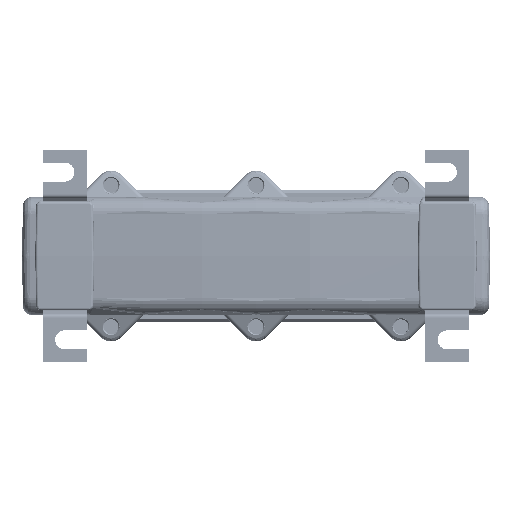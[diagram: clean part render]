
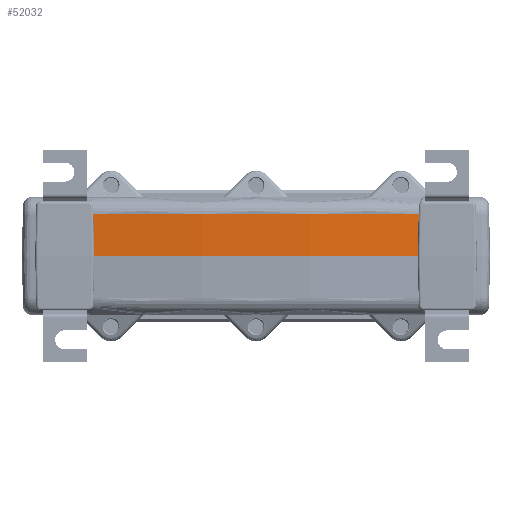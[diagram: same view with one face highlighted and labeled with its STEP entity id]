
A CAD part, front view. The second image highlights one B-rep face of the part: STEP entity #52032.
In plain terms, the highlighted conical face has half-angle 1 degrees and reference radius 600 mm.
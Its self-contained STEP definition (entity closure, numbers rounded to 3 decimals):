
#2309=CONICAL_SURFACE('',#55284,600.,0.017);
#3684=FACE_OUTER_BOUND('',#6546,.T.);
#6546=EDGE_LOOP('',(#37345,#37346,#37347,#37348));
#9515=B_SPLINE_CURVE_WITH_KNOTS('',3,(#118654,#118655,#118656,#118657),
 .UNSPECIFIED.,.F.,.F.,(4,4),(0.,0.014),
 .UNSPECIFIED.);
#9516=B_SPLINE_CURVE_WITH_KNOTS('',3,(#118660,#118661,#118662,#118663),
 .UNSPECIFIED.,.F.,.F.,(4,4),(0.,0.014),
 .UNSPECIFIED.);
#10635=CIRCLE('',#55285,600.);
#10636=CIRCLE('',#55286,599.754);
#22224=VERTEX_POINT('',#118650);
#22225=VERTEX_POINT('',#118651);
#22226=VERTEX_POINT('',#118653);
#22227=VERTEX_POINT('',#118658);
#27906=EDGE_CURVE('',#22224,#22225,#10635,.T.);
#27907=EDGE_CURVE('',#22224,#22226,#9515,.T.);
#27908=EDGE_CURVE('',#22226,#22227,#10636,.T.);
#27909=EDGE_CURVE('',#22225,#22227,#9516,.T.);
#37345=ORIENTED_EDGE('',*,*,#27906,.F.);
#37346=ORIENTED_EDGE('',*,*,#27907,.T.);
#37347=ORIENTED_EDGE('',*,*,#27908,.T.);
#37348=ORIENTED_EDGE('',*,*,#27909,.F.);
#52032=ADVANCED_FACE('',(#3684),#2309,.T.);
#55284=AXIS2_PLACEMENT_3D('',#118649,#61332,#61333);
#55285=AXIS2_PLACEMENT_3D('',#118652,#61334,#61335);
#55286=AXIS2_PLACEMENT_3D('',#118659,#61336,#61337);
#61332=DIRECTION('center_axis',(0.,0.,-1.));
#61333=DIRECTION('ref_axis',(1.,0.,0.));
#61334=DIRECTION('center_axis',(0.,0.,-1.));
#61335=DIRECTION('ref_axis',(-1.,0.,0.));
#61336=DIRECTION('center_axis',(0.,0.,-1.));
#61337=DIRECTION('ref_axis',(1.,0.,0.));
#118649=CARTESIAN_POINT('Origin',(0.,512.5,0.));
#118650=CARTESIAN_POINT('',(55.,-84.974,0.));
#118651=CARTESIAN_POINT('',(-55.,-84.974,0.));
#118652=CARTESIAN_POINT('Origin',(0.,512.5,0.));
#118653=CARTESIAN_POINT('',(55.246,-84.704,14.105));
#118654=CARTESIAN_POINT('Ctrl Pts',(55.,-84.974,
0.));
#118655=CARTESIAN_POINT('Ctrl Pts',(55.082,-84.884,4.702));
#118656=CARTESIAN_POINT('Ctrl Pts',(55.164,-84.794,
9.403));
#118657=CARTESIAN_POINT('Ctrl Pts',(55.246,-84.704,
14.105));
#118658=CARTESIAN_POINT('',(-55.246,-84.704,14.105));
#118659=CARTESIAN_POINT('Origin',(0.,512.5,14.105));
#118660=CARTESIAN_POINT('Ctrl Pts',(-55.,-84.974,
0.));
#118661=CARTESIAN_POINT('Ctrl Pts',(-55.082,-84.884,
4.702));
#118662=CARTESIAN_POINT('Ctrl Pts',(-55.164,-84.794,
9.403));
#118663=CARTESIAN_POINT('Ctrl Pts',(-55.246,-84.704,
14.105));
